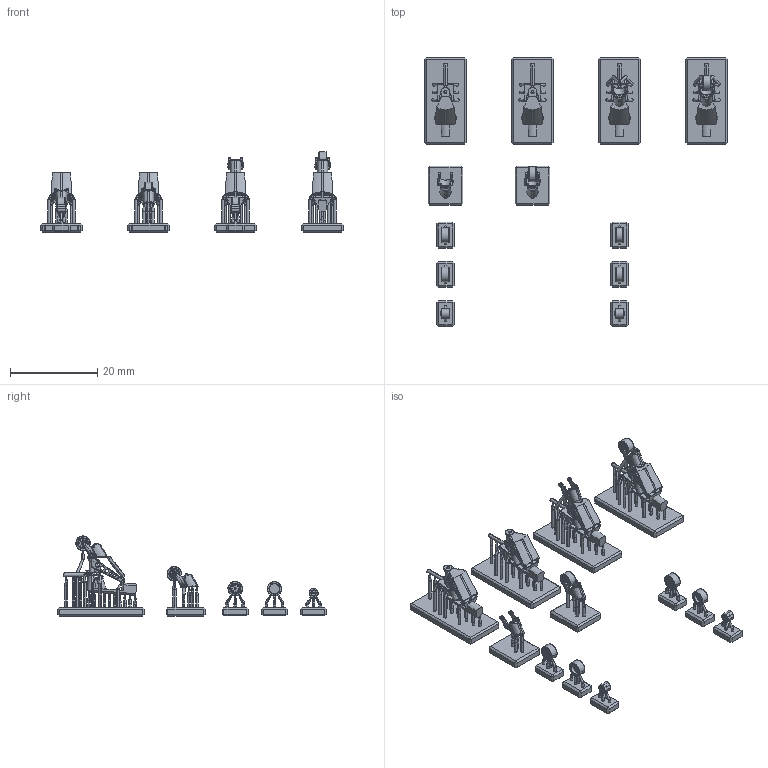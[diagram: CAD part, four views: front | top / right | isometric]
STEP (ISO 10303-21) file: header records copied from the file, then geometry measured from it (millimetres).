
FILE_DESCRIPTION(/* description */ (''),/* implementation_level */ '2;1');
FILE_NAME(/* name */ 'F6F-XT~1',/* time_stamp */ '2021-03-31T14:34:54+02:00',/* author */ (''),/* organization */ (''),/* preprocessor_version */ 'ST-DEVELOPER v16.5',/* originating_system */ '',/* authorisation */ '');
FILE_SCHEMA (('CONFIG_CONTROL_DESIGN'));
Products named in the file (1): Document
Bounding box: 69.6 x 61.9 x 18.39 mm (x, y, z)
Volume: 2643.3 mm3; surface area: 5739.8 mm2
Topology: 12 solids, 12 shells, 3107 faces, 8536 edges, 5264 vertices
Faces by surface type: plane 1169, bspline 1004, cylinder 934
Entity records: 131971 total; most frequent: CARTESIAN_POINT 79885, ORIENTED_EDGE 16720, EDGE_CURVE 8360, VERTEX_POINT 5264, B_SPLINE_CURVE_WITH_KNOTS 4948, EDGE_LOOP 3582, ADVANCED_FACE 3107, FACE_OUTER_BOUND 3107
